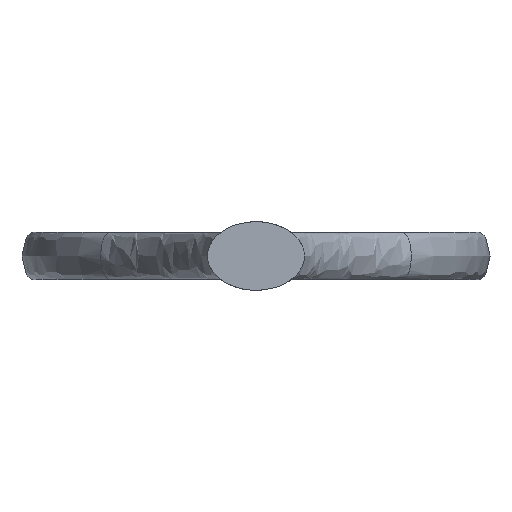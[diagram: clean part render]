
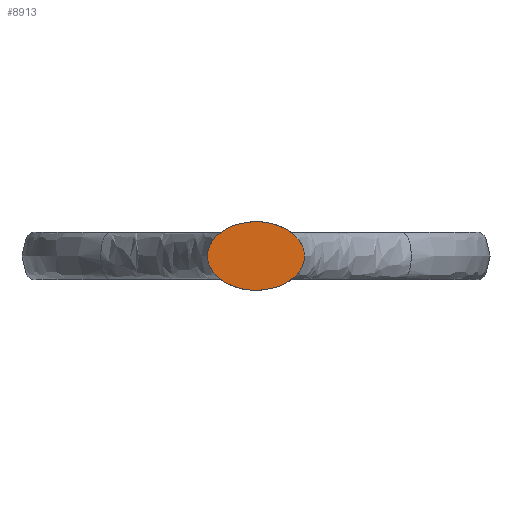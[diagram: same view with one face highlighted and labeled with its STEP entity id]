
A CAD part, front view. The second image highlights one B-rep face of the part: STEP entity #8913.
In plain terms, the highlighted planar face has unit normal (0, -1, 0).
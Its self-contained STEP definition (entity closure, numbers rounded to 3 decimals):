
#805 = VERTEX_POINT ( 'NONE', #10868 ) ;
#1088 = DIRECTION ( 'NONE',  ( 0., -1., 0. ) ) ;
#1983 = CARTESIAN_POINT ( 'NONE',  ( 20.426, -385., -29.012 ) ) ;
#2022 = EDGE_LOOP ( 'NONE', ( #6983, #7452 ) ) ;
#2056 = CARTESIAN_POINT ( 'NONE',  ( 0., -385., 0. ) ) ;
#2936 = CARTESIAN_POINT ( 'NONE',  ( -20.426, -385., 0. ) ) ;
#3526 = AXIS2_PLACEMENT_3D ( 'NONE', #2056, #1088, #4195 ) ;
#4195 = DIRECTION ( 'NONE',  ( 0., 0., -1. ) ) ;
#5101 = CARTESIAN_POINT ( 'NONE',  ( -20.426, -385., -29.012 ) ) ;
#6140 = CARTESIAN_POINT ( 'NONE',  ( 20.426, -385., 0. ) ) ;
#6341 = EDGE_CURVE ( 'NONE', #9864, #805, #10822, .T. ) ;
#6963 = CARTESIAN_POINT ( 'NONE',  ( 20.426, -385., 0. ) ) ;
#6983 = ORIENTED_EDGE ( 'NONE', *, *, #10485, .T. ) ;
#7452 = ORIENTED_EDGE ( 'NONE', *, *, #6341, .T. ) ;
#8108 = CARTESIAN_POINT ( 'NONE',  ( -20.426, -385., 29.012 ) ) ;
#8913 = ADVANCED_FACE ( 'NONE', ( #9331 ), #9126, .T. ) ;
#9126 = PLANE ( 'NONE',  #3526 ) ;
#9146 = CARTESIAN_POINT ( 'NONE',  ( 20.426, -385., 29.012 ) ) ;
#9331 = FACE_OUTER_BOUND ( 'NONE', #2022, .T. ) ;
#9864 = VERTEX_POINT ( 'NONE', #6963 ) ;
#10448 = CARTESIAN_POINT ( 'NONE',  ( -20.426, -385., 0. ) ) ;
#10485 = EDGE_CURVE ( 'NONE', #805, #9864, #13590, .T. ) ;
#10822 =( BOUNDED_CURVE ( )  B_SPLINE_CURVE ( 3, ( #11129, #9146, #8108, #2936 ),
 .UNSPECIFIED., .F., .F. ) 
 B_SPLINE_CURVE_WITH_KNOTS ( ( 4, 4 ),
 ( 3.142, 6.283 ),
 .UNSPECIFIED. ) 
 CURVE ( )  GEOMETRIC_REPRESENTATION_ITEM ( )  RATIONAL_B_SPLINE_CURVE ( ( 1., 0.333, 0.333, 1. ) ) 
 REPRESENTATION_ITEM ( '' )  );
#10868 = CARTESIAN_POINT ( 'NONE',  ( -20.426, -385., 0. ) ) ;
#11129 = CARTESIAN_POINT ( 'NONE',  ( 20.426, -385., 0. ) ) ;
#13590 =( BOUNDED_CURVE ( )  B_SPLINE_CURVE ( 3, ( #10448, #5101, #1983, #6140 ),
 .UNSPECIFIED., .F., .F. ) 
 B_SPLINE_CURVE_WITH_KNOTS ( ( 4, 4 ),
 ( 0., 3.142 ),
 .UNSPECIFIED. ) 
 CURVE ( )  GEOMETRIC_REPRESENTATION_ITEM ( )  RATIONAL_B_SPLINE_CURVE ( ( 1., 0.333, 0.333, 1. ) ) 
 REPRESENTATION_ITEM ( '' )  );
